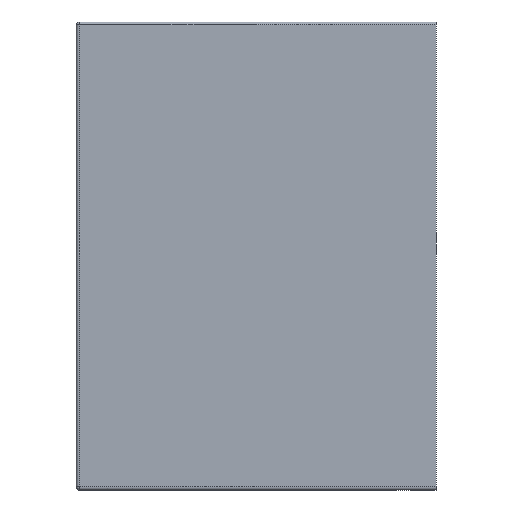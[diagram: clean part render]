
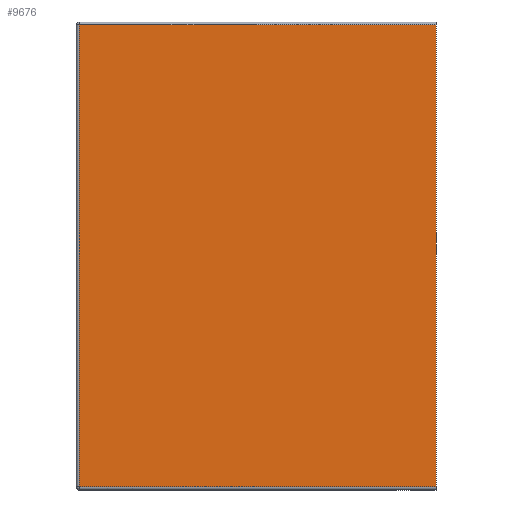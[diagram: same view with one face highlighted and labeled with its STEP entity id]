
A CAD part, left-side view. The second image highlights one B-rep face of the part: STEP entity #9676.
In plain terms, the highlighted planar face has unit normal (-1, 0, 0).
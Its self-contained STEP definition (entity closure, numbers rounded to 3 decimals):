
#343 = FACE_OUTER_BOUND ( 'NONE', #8512, .T. ) ;
#668 = CARTESIAN_POINT ( 'NONE',  ( -24., -30., -38.5 ) ) ;
#1279 = VECTOR ( 'NONE', #9552, 1000. ) ;
#1639 = VECTOR ( 'NONE', #5964, 1000. ) ;
#1796 = CARTESIAN_POINT ( 'NONE',  ( -24., 30., 38.5 ) ) ;
#2236 = CARTESIAN_POINT ( 'NONE',  ( -24., -30., 39. ) ) ;
#2580 = EDGE_CURVE ( 'NONE', #5785, #7099, #6415, .T. ) ;
#2749 = CARTESIAN_POINT ( 'NONE',  ( -24., -30., -38.5 ) ) ;
#3715 = DIRECTION ( 'NONE',  ( 0., 0., -1. ) ) ;
#4040 = DIRECTION ( 'NONE',  ( 0., -1., 0. ) ) ;
#4184 = EDGE_CURVE ( 'NONE', #9450, #7099, #5325, .T. ) ;
#4331 = LINE ( 'NONE', #1796, #7917 ) ;
#4447 = EDGE_CURVE ( 'NONE', #6122, #5785, #7449, .T. ) ;
#4954 = AXIS2_PLACEMENT_3D ( 'NONE', #2236, #5366, #3715 ) ;
#5325 = LINE ( 'NONE', #8665, #1279 ) ;
#5366 = DIRECTION ( 'NONE',  ( 1., 0., 0. ) ) ;
#5750 = CARTESIAN_POINT ( 'NONE',  ( -24., -30., 38.5 ) ) ;
#5785 = VERTEX_POINT ( 'NONE', #10164 ) ;
#5863 = ORIENTED_EDGE ( 'NONE', *, *, #2580, .T. ) ;
#5922 = CARTESIAN_POINT ( 'NONE',  ( -24., 29.5, 38.5 ) ) ;
#5964 = DIRECTION ( 'NONE',  ( 0., 0., -1. ) ) ;
#6122 = VERTEX_POINT ( 'NONE', #5922 ) ;
#6126 = DIRECTION ( 'NONE',  ( 0., 1., 0. ) ) ;
#6412 = PLANE ( 'NONE',  #4954 ) ;
#6415 = LINE ( 'NONE', #668, #6524 ) ;
#6420 = ORIENTED_EDGE ( 'NONE', *, *, #9603, .T. ) ;
#6524 = VECTOR ( 'NONE', #4040, 1000. ) ;
#7099 = VERTEX_POINT ( 'NONE', #2749 ) ;
#7313 = ORIENTED_EDGE ( 'NONE', *, *, #4447, .T. ) ;
#7449 = LINE ( 'NONE', #10810, #1639 ) ;
#7917 = VECTOR ( 'NONE', #6126, 1000. ) ;
#8512 = EDGE_LOOP ( 'NONE', ( #7313, #5863, #9265, #6420 ) ) ;
#8665 = CARTESIAN_POINT ( 'NONE',  ( -24., -30., 39. ) ) ;
#9265 = ORIENTED_EDGE ( 'NONE', *, *, #4184, .F. ) ;
#9450 = VERTEX_POINT ( 'NONE', #5750 ) ;
#9552 = DIRECTION ( 'NONE',  ( 0., 0., -1. ) ) ;
#9603 = EDGE_CURVE ( 'NONE', #9450, #6122, #4331, .T. ) ;
#9676 = ADVANCED_FACE ( 'NONE', ( #343 ), #6412, .F. ) ;
#10164 = CARTESIAN_POINT ( 'NONE',  ( -24., 29.5, -38.5 ) ) ;
#10810 = CARTESIAN_POINT ( 'NONE',  ( -24., 29.5, 39. ) ) ;
